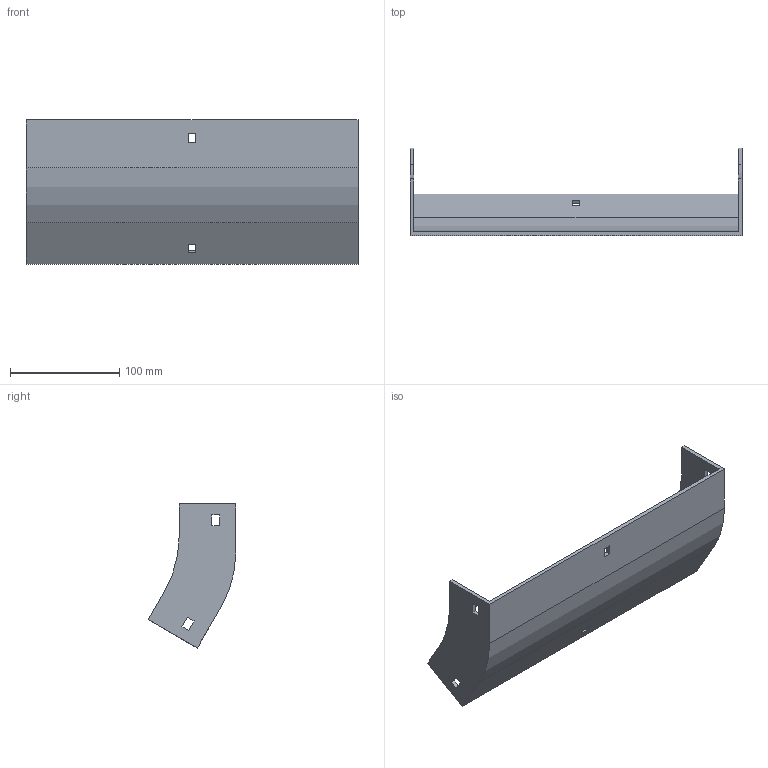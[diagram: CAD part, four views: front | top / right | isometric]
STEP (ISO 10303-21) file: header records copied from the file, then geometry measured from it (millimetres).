
FILE_DESCRIPTION (( 'STEP AP214' ), '1' );
FILE_NAME ('32F1B300.step', '2025-02-21T12:58:09', ( '' ), ( '' ), 'SwSTEP 2.0', 'SolidWorks 2023', '' );
FILE_SCHEMA (( 'AUTOMOTIVE_DESIGN' ));
Length unit declared in the file: millimetre
Products named in the file (1): 32F1B300
Bounding box: 304 x 80.4 x 131.98 mm (x, y, z)
Volume: 189842 mm3; surface area: 112774.1 mm2
Topology: 1 solids, 1 shells, 42 faces, 120 edges, 80 vertices
Faces by surface type: plane 38, cylinder 4
Entity records: 1399 total; most frequent: CARTESIAN_POINT 243, ORIENTED_EDGE 240, DIRECTION 214, EDGE_CURVE 120, LINE 112, VECTOR 112, VERTEX_POINT 80, EDGE_LOOP 54
